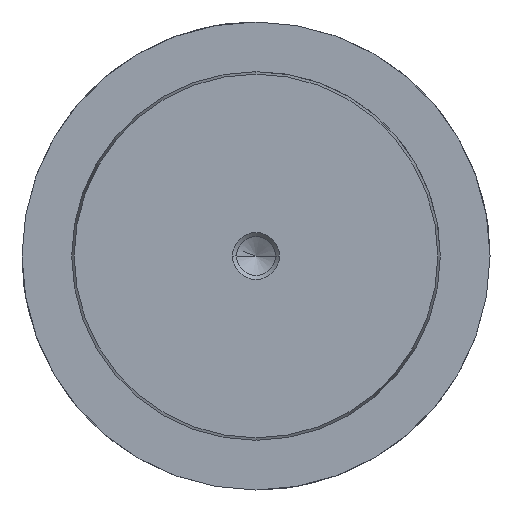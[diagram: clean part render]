
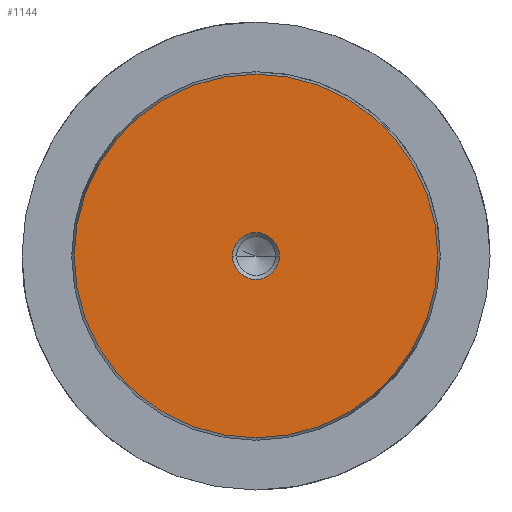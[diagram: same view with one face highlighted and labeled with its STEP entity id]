
A CAD part, left-side view. The second image highlights one B-rep face of the part: STEP entity #1144.
In plain terms, the highlighted planar face has unit normal (-1, 0, 0).
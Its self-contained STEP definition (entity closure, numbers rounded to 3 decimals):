
#1058=CARTESIAN_POINT('Vertex',(0.,0.,-31.078)) ;
#1061=CARTESIAN_POINT('Axis2P3D Location',(0.,0.,0.)) ;
#1065=CARTESIAN_POINT('Vertex',(0.,31.078,0.)) ;
#1068=CARTESIAN_POINT('Axis2P3D Location',(0.,0.,0.)) ;
#1072=CARTESIAN_POINT('Vertex',(0.,0.,31.078)) ;
#1094=CARTESIAN_POINT('Axis2P3D Location',(0.,0.,0.)) ;
#1098=CARTESIAN_POINT('Vertex',(0.,-31.078,0.)) ;
#1101=CARTESIAN_POINT('Axis2P3D Location',(0.,0.,0.)) ;
#1115=CARTESIAN_POINT('Axis2P3D Location',(0.,0.,0.)) ;
#1126=CARTESIAN_POINT('Axis2P3D Location',(0.,0.,0.)) ;
#1130=CARTESIAN_POINT('Vertex',(0.,4.,0.)) ;
#1132=CARTESIAN_POINT('Vertex',(0.,-4.,0.)) ;
#1135=CARTESIAN_POINT('Axis2P3D Location',(0.,0.,0.)) ;
#1062=DIRECTION('Axis2P3D Direction',(1.,-0.,0.)) ;
#1069=DIRECTION('Axis2P3D Direction',(1.,-0.,0.)) ;
#1095=DIRECTION('Axis2P3D Direction',(1.,0.,-0.)) ;
#1102=DIRECTION('Axis2P3D Direction',(1.,0.,-0.)) ;
#1116=DIRECTION('Axis2P3D Direction',(1.,0.,-0.)) ;
#1117=DIRECTION('Axis2P3D XDirection',(-0.,0.,-1.)) ;
#1127=DIRECTION('Axis2P3D Direction',(1.,0.,-0.)) ;
#1136=DIRECTION('Axis2P3D Direction',(1.,0.,-0.)) ;
#1063=AXIS2_PLACEMENT_3D('Circle Axis2P3D',#1061,#1062,$) ;
#1070=AXIS2_PLACEMENT_3D('Circle Axis2P3D',#1068,#1069,$) ;
#1096=AXIS2_PLACEMENT_3D('Circle Axis2P3D',#1094,#1095,$) ;
#1103=AXIS2_PLACEMENT_3D('Circle Axis2P3D',#1101,#1102,$) ;
#1118=AXIS2_PLACEMENT_3D('Plane Axis2P3D',#1115,#1116,#1117) ;
#1128=AXIS2_PLACEMENT_3D('Circle Axis2P3D',#1126,#1127,$) ;
#1137=AXIS2_PLACEMENT_3D('Circle Axis2P3D',#1135,#1136,$) ;
#1121=ORIENTED_EDGE('',*,*,#1067,.F.) ;
#1122=ORIENTED_EDGE('',*,*,#1105,.F.) ;
#1123=ORIENTED_EDGE('',*,*,#1100,.F.) ;
#1124=ORIENTED_EDGE('',*,*,#1074,.F.) ;
#1141=ORIENTED_EDGE('',*,*,#1134,.T.) ;
#1142=ORIENTED_EDGE('',*,*,#1139,.T.) ;
#1143=FACE_BOUND('',#1140,.T.) ;
#1144=ADVANCED_FACE('719-63x400',(#1125,#1143),#1119,.F.) ;
#1064=CIRCLE('generated circle',#1063,31.078) ;
#1071=CIRCLE('generated circle',#1070,31.078) ;
#1097=CIRCLE('generated circle',#1096,31.078) ;
#1104=CIRCLE('generated circle',#1103,31.078) ;
#1129=CIRCLE('generated circle',#1128,4.) ;
#1138=CIRCLE('generated circle',#1137,4.) ;
#1067=EDGE_CURVE('',#1059,#1066,#1064,.T.) ;
#1074=EDGE_CURVE('',#1066,#1073,#1071,.T.) ;
#1100=EDGE_CURVE('',#1073,#1099,#1097,.T.) ;
#1105=EDGE_CURVE('',#1099,#1059,#1104,.T.) ;
#1134=EDGE_CURVE('',#1131,#1133,#1129,.T.) ;
#1139=EDGE_CURVE('',#1133,#1131,#1138,.T.) ;
#1120=EDGE_LOOP('',(#1121,#1122,#1123,#1124)) ;
#1140=EDGE_LOOP('',(#1141,#1142)) ;
#1125=FACE_OUTER_BOUND('',#1120,.T.) ;
#1119=PLANE('Plane',#1118) ;
#1059=VERTEX_POINT('',#1058) ;
#1066=VERTEX_POINT('',#1065) ;
#1073=VERTEX_POINT('',#1072) ;
#1099=VERTEX_POINT('',#1098) ;
#1131=VERTEX_POINT('',#1130) ;
#1133=VERTEX_POINT('',#1132) ;
